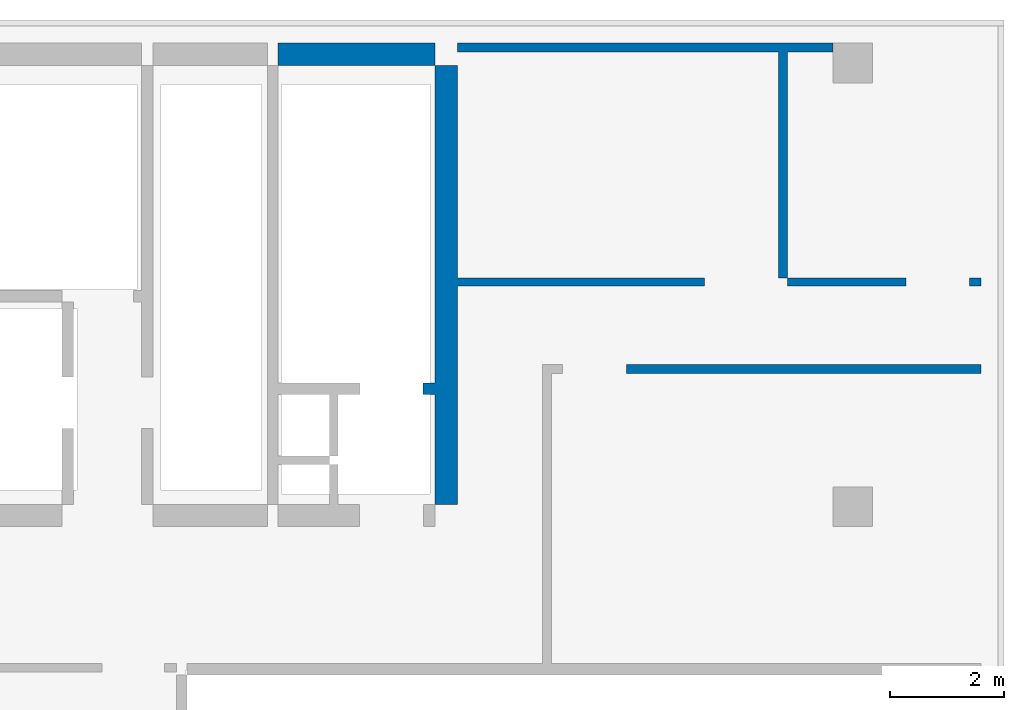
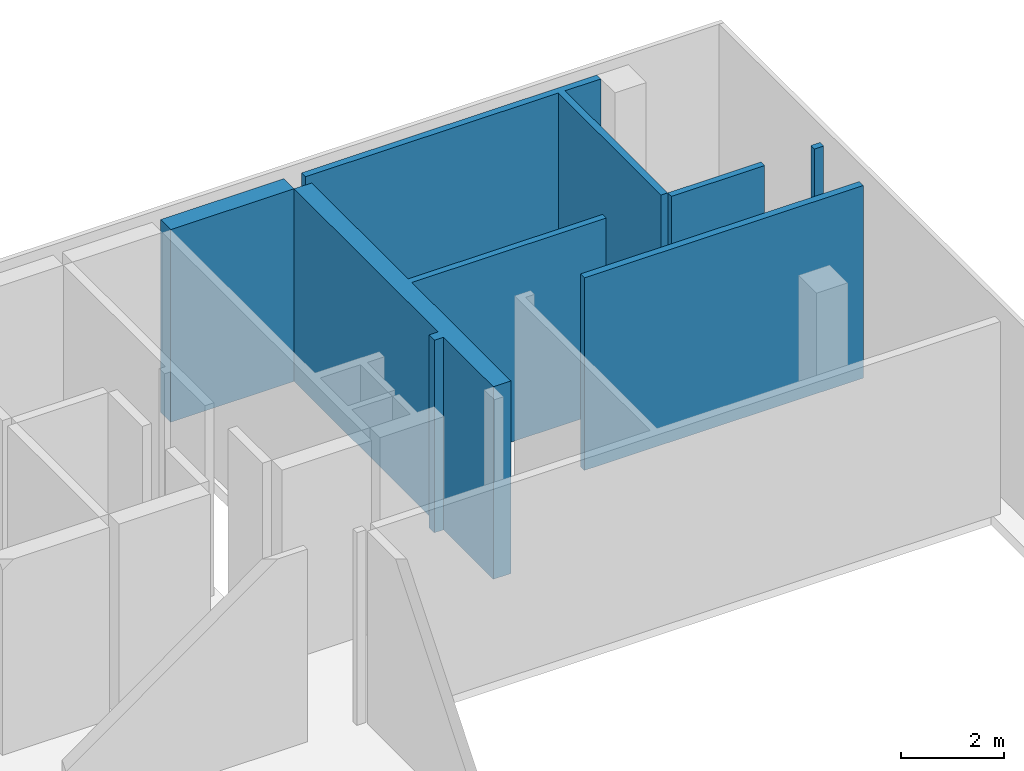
# One storey, part 3 of 4: 6 walls.
"""IFC4 building model written with IfcOpenShell, lengths in millimetres."""

from ifc_helpers import new_model, si_unit, frame, origin, place, context, project, spatial, triangles, element, save


model = new_model("IFC4")

# Units and contexts
model_context = context("Model", 3, precision=0.001, world=origin())
ifc_project = project(units=[si_unit("LENGTHUNIT", "METRE", prefix="MILLI"), si_unit("AREAUNIT", "SQUARE_METRE"), si_unit("VOLUMEUNIT", "CUBIC_METRE")], contexts=[model_context])

# Site, building, storey
site_placement = place(None, origin())
site = spatial("IfcSite", under=ifc_project, at=site_placement, Name="Site", CompositionType="ELEMENT")
building_placement = place(site_placement, origin())
building = spatial("IfcBuilding", under=site, at=building_placement, Name="INNOCEAN", CompositionType="ELEMENT")
storey_placement = place(building_placement, frame((0.0, 0.0, 20600.0)))
storey = spatial("IfcBuildingStorey", under=building, at=storey_placement, Name="F05", CompositionType="ELEMENT", Elevation=20600.0)

# Walls
wall_1_placement = place(storey_placement, origin())
element("IfcWall", 1, at=wall_1_placement, inside=storey, Name="F05_Walls_F05_076", context=model_context, shape_type="Tessellation", body=[
    triangles([(40215.0, 19450.0, 0.0), (40215.0, 19245.0, 0.0), (40215.0, 19245.0, 4550.0), (40215.0, 19450.0, 4550.0), (40419.5, 19450.0, 0.0), (40419.5, 19450.0, 4550.0), (40419.5, 25025.8, 0.0), (40419.5, 25025.8, 4550.0), (40813.0, 25025.8, 0.0), (40813.0, 25025.8, 4550.0), (40813.0, 21291.6, 0.0), (40813.0, 21291.6, 4550.0), (45154.0, 21291.6, 0.0), (45154.0, 21291.6, 4550.0), (45154.0, 21290.0, 4550.0), (45154.0, 21290.0, 0.0), (45155.0, 21290.0, 0.0), (45155.0, 21290.0, 4550.0), (45155.0, 21150.0, 0.0), (45155.0, 21150.0, 4550.0), (40815.0, 21150.0, 0.0), (40815.0, 21150.0, 4550.0), (40815.0, 21151.9, 4550.0), (40815.0, 21151.9, 0.0), (40813.0, 21151.9, 0.0), (40813.0, 21151.9, 4550.0), (40813.0, 19449.9, 0.0), (40813.0, 19449.9, 4550.0), (40813.0, 17316.1, 0.0), (40813.0, 17316.1, 4550.0), (40419.5, 17316.1, 0.0), (40419.5, 17316.1, 4550.0), (40419.5, 19245.0, 0.0), (40419.5, 19245.0, 4550.0)], [[1, 2, 3], [1, 3, 4], [5, 1, 4], [5, 4, 6], [7, 5, 6], [7, 6, 8], [9, 7, 8], [9, 8, 10], [11, 9, 10], [11, 10, 12], [13, 11, 12], [13, 12, 14], [13, 14, 15], [16, 13, 15], [17, 16, 15], [17, 15, 18], [19, 17, 18], [19, 18, 20], [21, 19, 20], [21, 20, 22], [21, 22, 23], [24, 21, 23], [25, 24, 23], [25, 23, 26], [27, 25, 26], [27, 26, 28], [29, 27, 28], [29, 28, 30], [31, 29, 30], [31, 30, 32], [33, 31, 32], [33, 32, 34], [2, 33, 34], [2, 34, 3], [16, 17, 19], [33, 27, 29], [33, 29, 31], [5, 27, 33], [1, 33, 2], [1, 5, 33], [24, 19, 21], [24, 16, 19], [11, 13, 16], [11, 24, 25], [11, 16, 24], [7, 9, 11], [5, 7, 11], [5, 11, 25], [5, 25, 27], [18, 15, 20], [28, 34, 30], [30, 34, 32], [28, 6, 34], [34, 4, 3], [6, 4, 34], [20, 23, 22], [15, 23, 20], [14, 12, 15], [23, 12, 26], [15, 12, 23], [10, 8, 12], [8, 6, 12], [12, 6, 26], [26, 6, 28]], closed=True),
])
wall_2_placement = place(storey_placement, origin())
element("IfcWall", 2, at=wall_2_placement, inside=storey, Name="F05_Walls_F05_077", context=model_context, shape_type="Tessellation", body=[
    triangles([(50015.5, 19615.0, 0.0), (50015.5, 19767.5, 0.0), (50015.5, 19767.5, 4550.0), (50015.5, 19615.0, 4550.0), (50015.0, 19615.0, 4550.0), (50015.0, 19615.0, 0.0), (43785.0, 19615.0, 0.0), (43785.0, 19615.0, 4550.0), (43783.2, 19615.0, 0.0), (43783.2, 19615.0, 4550.0), (43783.2, 19767.5, 0.0), (43783.2, 19767.5, 4550.0), (43785.0, 19767.5, 0.0), (43785.0, 19767.5, 4550.0), (43785.0, 19770.0, 0.0), (43785.0, 19770.0, 4550.0), (50015.0, 19770.0, 0.0), (50015.0, 19770.0, 4550.0), (50015.0, 19767.5, 0.0), (50015.0, 19767.5, 4550.0)], [[1, 2, 3], [1, 3, 4], [1, 4, 5], [6, 1, 5], [7, 6, 5], [7, 5, 8], [9, 7, 8], [9, 8, 10], [11, 9, 10], [11, 10, 12], [13, 11, 12], [13, 12, 14], [15, 13, 14], [15, 14, 16], [17, 15, 16], [17, 16, 18], [19, 17, 18], [19, 18, 20], [19, 20, 3], [2, 19, 3], [2, 1, 6], [19, 2, 6], [13, 6, 7], [13, 7, 9], [13, 19, 6], [11, 13, 9], [15, 17, 19], [15, 19, 13], [4, 3, 5], [3, 20, 5], [5, 14, 8], [8, 14, 10], [20, 14, 5], [14, 12, 10], [18, 16, 20], [20, 16, 14]], closed=True),
])
wall_3_placement = place(storey_placement, origin())
element("IfcWall", 3, at=wall_3_placement, inside=storey, Name="F05_Walls_F05_078", context=model_context, shape_type="Tessellation", body=[
    triangles([(50015.0, 21151.9, 0.0), (50015.0, 21151.9, 4550.0), (50015.0, 21150.0, 4550.0), (50015.0, 21150.0, 0.0), (49810.0, 21150.0, 0.0), (49810.0, 21150.0, 4550.0), (49810.0, 21290.0, 0.0), (49810.0, 21290.0, 4550.0), (49812.5, 21290.0, 0.0), (49812.5, 21290.0, 4550.0), (49812.5, 21291.6, 4550.0), (49812.5, 21291.6, 0.0), (50015.5, 21291.6, 4550.0), (50015.5, 21291.6, 0.0), (50015.5, 21151.9, 0.0), (50015.5, 21151.9, 4550.0)], [[1, 2, 3], [4, 1, 3], [5, 4, 3], [5, 3, 6], [7, 5, 6], [7, 6, 8], [9, 7, 8], [9, 8, 10], [9, 10, 11], [12, 9, 11], [12, 11, 13], [14, 12, 13], [15, 14, 13], [15, 13, 16], [15, 16, 2], [1, 15, 2], [14, 15, 1], [5, 1, 4], [9, 14, 1], [9, 1, 5], [12, 14, 9], [7, 9, 5], [16, 13, 2], [2, 6, 3], [13, 10, 2], [2, 10, 6], [13, 11, 10], [10, 8, 6]], closed=True),
])
wall_4_placement = place(storey_placement, origin())
element("IfcWall", 4, at=wall_4_placement, inside=storey, Name="F05_Walls_F05_079", context=model_context, shape_type="Tessellation", body=[
    triangles([(48695.4, 21151.9, 0.0), (48695.4, 21291.6, 0.0), (48695.4, 21291.6, 4550.0), (48695.4, 21151.9, 4550.0), (46613.8, 21151.9, 0.0), (46613.8, 21151.9, 4550.0), (46613.8, 21291.6, 0.0), (46613.8, 21291.6, 4550.0)], [[1, 2, 3], [1, 3, 4], [5, 1, 4], [5, 4, 6], [7, 5, 6], [7, 6, 8], [2, 7, 8], [2, 8, 3], [7, 2, 1], [7, 1, 5], [3, 8, 4], [4, 8, 6]], closed=True),
])
wall_5_placement = place(storey_placement, origin())
element("IfcWall", 5, at=wall_5_placement, inside=storey, Name="F05_Walls_F05_080", context=model_context, shape_type="Tessellation", body=[
    triangles([(46613.8, 25267.1, 0.0), (47413.4, 25267.1, 0.0), (47413.4, 25267.1, 4550.0), (46613.8, 25267.1, 4550.0), (46613.8, 21291.6, 4550.0), (46613.8, 21291.6, 0.0), (46461.4, 21291.6, 0.0), (46461.4, 21291.6, 4550.0), (46461.4, 25267.1, 4550.0), (46461.4, 25267.1, 0.0), (40813.0, 25267.1, 0.0), (40813.0, 25267.1, 4550.0), (40813.0, 25419.5, 0.0), (40813.0, 25419.5, 4550.0), (47413.4, 25419.5, 4550.0), (47413.4, 25419.5, 0.0)], [[1, 2, 3], [1, 3, 4], [1, 4, 5], [6, 1, 5], [7, 6, 5], [7, 5, 8], [7, 8, 9], [10, 7, 9], [11, 10, 9], [11, 9, 12], [13, 11, 12], [13, 12, 14], [15, 13, 14], [16, 13, 15], [2, 16, 15], [2, 15, 3], [1, 16, 2], [10, 1, 6], [10, 6, 7], [10, 16, 1], [13, 10, 11], [13, 16, 10], [15, 4, 3], [4, 9, 5], [5, 9, 8], [15, 9, 4], [9, 14, 12], [15, 14, 9]], closed=True),
])
wall_6_placement = place(storey_placement, origin())
element("IfcWall", 6, at=wall_6_placement, inside=storey, Name="F05_Walls_F05_081", context=model_context, shape_type="Tessellation", body=[
    triangles([(37665.0, 25025.8, 0.0), (40419.5, 25025.8, 0.0), (40419.5, 25025.8, 4550.0), (37665.0, 25025.8, 4550.0), (37665.0, 25419.5, 0.0), (37665.0, 25419.5, 4550.0), (40419.5, 25419.5, 0.0), (40419.5, 25419.5, 4550.0)], [[1, 2, 3], [1, 3, 4], [5, 1, 4], [5, 4, 6], [7, 5, 6], [7, 6, 8], [2, 7, 8], [2, 8, 3], [5, 2, 1], [5, 7, 2], [3, 6, 4], [8, 6, 3]], closed=True),
])

save(model, "model.ifc")
